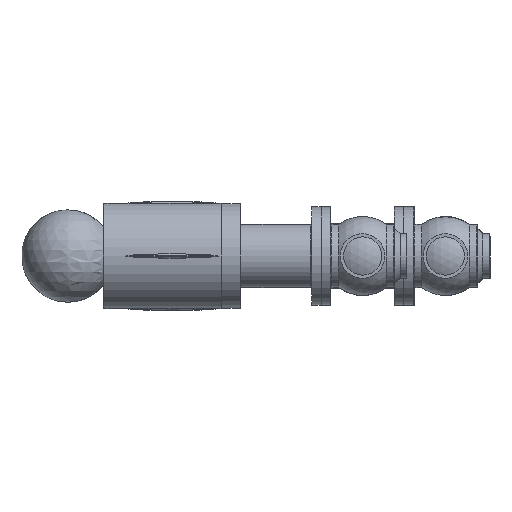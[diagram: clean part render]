
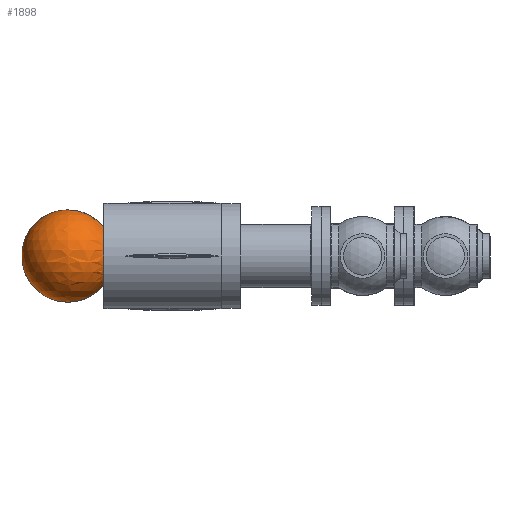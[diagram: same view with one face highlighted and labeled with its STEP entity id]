
A CAD part, left-side view. The second image highlights one B-rep face of the part: STEP entity #1898.
In plain terms, the highlighted spherical face has radius 72.5 mm.
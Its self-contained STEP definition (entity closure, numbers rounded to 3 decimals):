
#123=SPHERICAL_SURFACE('',#2223,72.5);
#354=FACE_BOUND('',#535,.T.);
#414=FACE_OUTER_BOUND('',#534,.T.);
#534=EDGE_LOOP('',(#1488,#1489));
#535=EDGE_LOOP('',(#1490));
#691=CIRCLE('',#2224,72.5);
#692=CIRCLE('',#2225,46.648);
#900=VERTEX_POINT('',#3708);
#901=VERTEX_POINT('',#3709);
#902=VERTEX_POINT('',#3711);
#1124=EDGE_CURVE('',#900,#901,#691,.T.);
#1125=EDGE_CURVE('',#902,#902,#692,.T.);
#1488=ORIENTED_EDGE('',*,*,#1124,.T.);
#1489=ORIENTED_EDGE('',*,*,#1124,.F.);
#1490=ORIENTED_EDGE('',*,*,#1125,.F.);
#1898=ADVANCED_FACE('',(#414,#354),#123,.T.);
#2223=AXIS2_PLACEMENT_3D('',#3707,#2672,#2673);
#2224=AXIS2_PLACEMENT_3D('',#3710,#2674,#2675);
#2225=AXIS2_PLACEMENT_3D('',#3712,#2676,#2677);
#2672=DIRECTION('center_axis',(0.,0.,1.));
#2673=DIRECTION('ref_axis',(1.,0.,0.));
#2674=DIRECTION('center_axis',(0.,-1.,0.));
#2675=DIRECTION('ref_axis',(-1.,0.,0.));
#2676=DIRECTION('center_axis',(0.,-1.,0.));
#2677=DIRECTION('ref_axis',(1.,0.,0.));
#3707=CARTESIAN_POINT('Origin',(150.,266.5,0.));
#3708=CARTESIAN_POINT('',(150.,266.5,72.5));
#3709=CARTESIAN_POINT('',(150.,266.5,-72.5));
#3710=CARTESIAN_POINT('Origin',(150.,266.5,0.));
#3711=CARTESIAN_POINT('',(196.648,211.,0.));
#3712=CARTESIAN_POINT('Origin',(150.,211.,0.));
